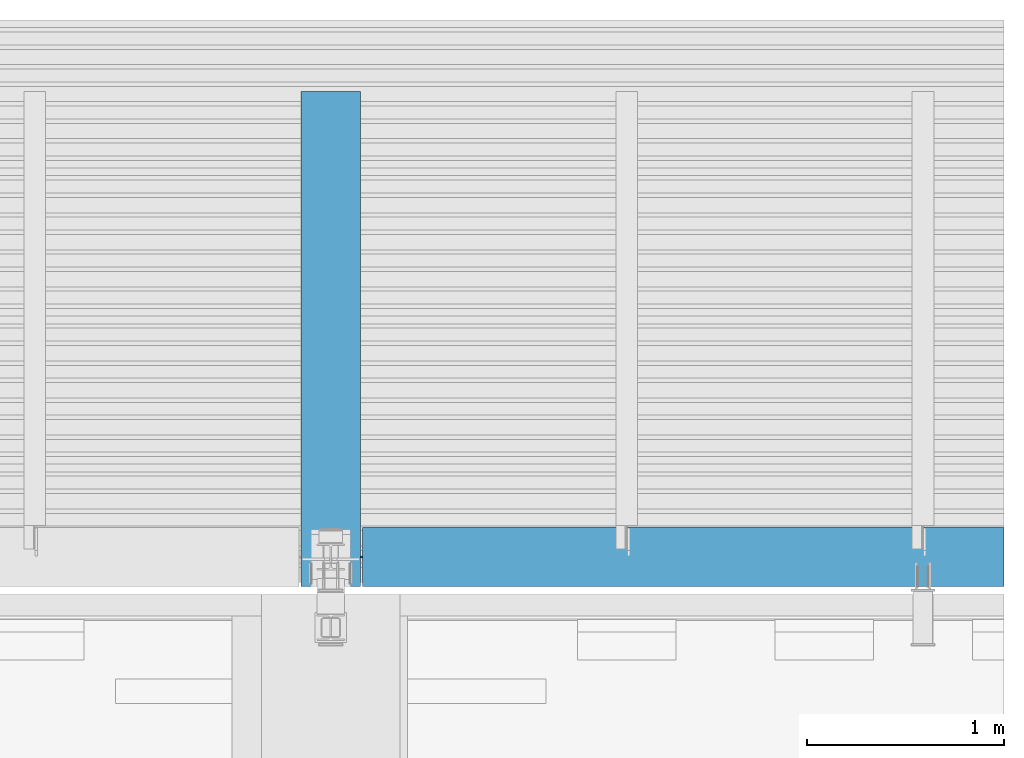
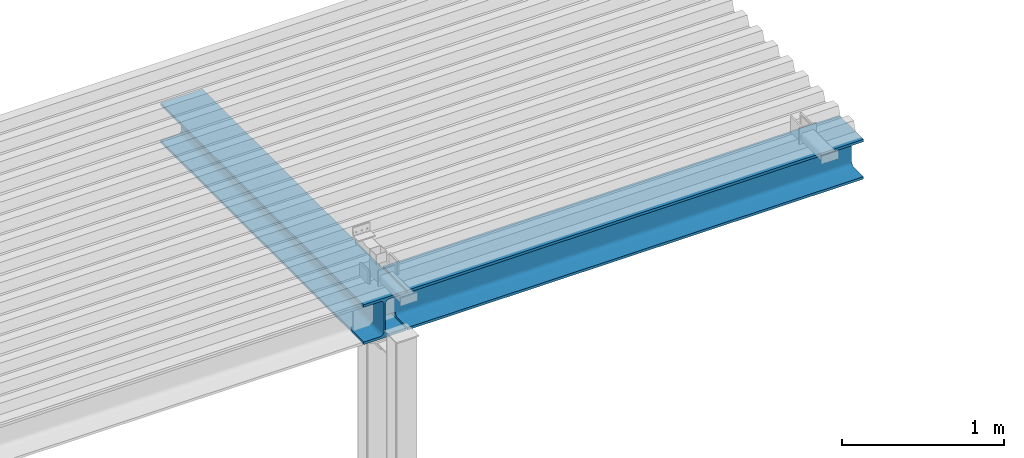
# One storey, part 28 of 34: 2 beams.
"""IFC2X3 building model written with IfcOpenShell, lengths in millimetres."""

from ifc_helpers import new_model, entity, si_unit, converted_unit, derived_unit, direction, frame, origin_with_axes, place, context, subcontext, project, spatial, faceted_brep, type_object, element, save


model = new_model("IFC2X3")

# Units and contexts
model_context = context("Model", 3, precision=0.01, world=frame((0.0, 4.29681676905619e-09, 0.0)), true_north=direction((4.01073788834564e-13, 1.0)))
plan_context = context("Plan", 3, precision=0.01, world=frame((0.0, 4.29681676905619e-09, 0.0)), true_north=direction((4.01073788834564e-13, 1.0)))
body_context = subcontext(model_context, "Body", "Model", "MODEL_VIEW")
ifc_project = project(units=[converted_unit("PLANEANGLEUNIT", "DEGREE", entity("IfcPositiveLengthMeasure", 0.0174532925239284), si_unit("PLANEANGLEUNIT", "RADIAN"), dimensions=[0, 0, 0, 0, 0, 0, 0]), si_unit("AREAUNIT", "SQUARE_METRE"), si_unit("LENGTHUNIT", "METRE", prefix="MILLI"), si_unit("MASSUNIT", "GRAM", prefix="KILO"), si_unit("POWERUNIT", "WATT"), si_unit("PRESSUREUNIT", "PASCAL"), si_unit("FORCEUNIT", "NEWTON", prefix="KILO"), si_unit("ELECTRICVOLTAGEUNIT", "VOLT"), si_unit("ELECTRICCURRENTUNIT", "AMPERE"), si_unit("THERMODYNAMICTEMPERATUREUNIT", "DEGREE_CELSIUS"), si_unit("TIMEUNIT", "SECOND"), si_unit("VOLUMEUNIT", "CUBIC_METRE"), derived_unit("LINEARVELOCITYUNIT", [(si_unit("LENGTHUNIT", "METRE"), 1), (si_unit("TIMEUNIT", "SECOND"), -1)]), derived_unit("VOLUMETRICFLOWRATEUNIT", [(si_unit("VOLUMEUNIT", "CUBIC_METRE"), 1), (si_unit("TIMEUNIT", "SECOND"), -1)]), derived_unit("THERMALTRANSMITTANCEUNIT", [(si_unit("POWERUNIT", "WATT"), 1), (si_unit("THERMODYNAMICTEMPERATUREUNIT", "KELVIN"), -1), (si_unit("AREAUNIT", "SQUARE_METRE"), -1)]), derived_unit("SOUNDPRESSUREUNIT", [(si_unit("PRESSUREUNIT", "PASCAL"), 1)])], contexts=[model_context, plan_context])

# Site, building, storey
site_placement = place(None, frame((0.0, -4.29681676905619e-09, 0.0), z_axis=(0.0, 0.0, 1.0), x_axis=(1.0, 0.0, 0.0)))
site = spatial("IfcSite", under=ifc_project, at=site_placement, Name="Gardermoen", CompositionType="ELEMENT")
building_placement = place(site_placement, frame((0.0, 4.29681676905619e-09, 0.0), z_axis=(0.0, 0.0, 1.0), x_axis=(1.0, 0.0, 0.0)))
building = spatial("IfcBuilding", under=site, at=building_placement, Name="TH", CompositionType="ELEMENT")
storey_placement = place(building_placement, origin_with_axes())
storey = spatial("IfcBuildingStorey", under=building, at=storey_placement, Name="F", CompositionType="ELEMENT", Elevation=0.0)

# Beams
beam_type = type_object("IfcBeamType", Name="HEB300", PredefinedType="NOTDEFINED")
beam_1_placement = place(storey_placement, frame((907000.000000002, 484849.995625, 213270.0), z_axis=(0.0, 0.0, 1.0), x_axis=(0.0, 1.0, 0.0)))
element("IfcBeam", 1, at=beam_1_placement, inside=storey, type_object=beam_type, Name="STÅLBJELKE", ObjectType="HEB300", context=body_context, shape_type="Brep", body=[
    faceted_brep([(2507.65437500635, -149.999999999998, -149.999999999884), (2507.65437500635, 150.000000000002, -149.999999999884), (-4.10182110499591e-10, 150.000000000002, -149.999999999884), (-4.10182110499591e-10, -149.999999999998, -149.999999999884), (2507.65437500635, -149.999999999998, -130.999999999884), (-4.10182110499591e-10, -149.999999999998, -130.999999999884), (2507.65437500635, -32.4999999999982, -130.999999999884), (-4.10182110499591e-10, -32.4999999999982, -130.999999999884), (2507.65437500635, -27.2325613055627, -130.481202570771), (-4.10182110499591e-10, -27.2325613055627, -130.481202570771), (2507.65437500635, -22.1675473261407, -128.944747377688), (-4.10182110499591e-10, -22.1675473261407, -128.944747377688), (2507.65437500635, -17.4996037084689, -126.449679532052), (-4.10182110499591e-10, -17.4996037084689, -126.449679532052), (2507.65437500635, -13.4081169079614, -123.09188309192), (-4.10182110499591e-10, -13.4081169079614, -123.09188309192), (2507.65437500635, -10.0503204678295, -119.000396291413), (-4.10182110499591e-10, -10.0503204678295, -119.000396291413), (2507.65437500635, -7.55525262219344, -114.332452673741), (-4.10182110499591e-10, -7.55525262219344, -114.332452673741), (2507.65437500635, -6.01879742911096, -109.267438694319), (-4.10182110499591e-10, -6.01879742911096, -109.267438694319), (2507.65437500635, -5.49999999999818, -103.999999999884), (-4.10182110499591e-10, -5.49999999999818, -103.999999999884), (2507.65437500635, -5.49999999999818, 104.000000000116), (-4.10182110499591e-10, -5.49999999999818, 104.000000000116), (1499.99999644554, -5.49999999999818, -22.4999973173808), (1510.2871607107, -5.49999999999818, -21.6475789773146), (1520.2937158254, -5.49999999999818, -19.113575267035), (1529.74671125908, -5.49999999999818, -14.9671072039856), (1538.38829393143, -5.49999999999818, -9.32127963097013), (1545.98274398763, -5.49999999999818, -2.33009601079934), (1552.32290462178, -5.49999999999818, 5.81574238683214), (1557.23583277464, -5.49999999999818, 14.8940383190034), (1560.58751656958, -5.49999999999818, 24.6571595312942), (1562.28653080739, -5.49999999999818, 34.8387935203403), (1562.28653080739, -5.49999999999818, 45.1612118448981), (1560.58751656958, -5.49999999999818, 55.3428458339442), (1557.23583277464, -5.49999999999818, 65.105967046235), (1552.32290462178, -5.49999999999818, 74.1842629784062), (1545.98274398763, -5.49999999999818, 82.3301013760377), (1538.38829393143, -5.49999999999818, 89.3212849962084), (1529.74671125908, -5.49999999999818, 94.9671125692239), (1520.2937158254, -5.49999999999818, 99.1135806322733), (1510.2871607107, -5.49999999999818, 101.647584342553), (1499.99999866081, -5.49999999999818, 102.500002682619), (1489.14699239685, -5.49999999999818, 101.550487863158), (1478.62374438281, -5.49999999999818, 98.7307926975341), (1468.75000307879, -5.49999999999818, 94.1265921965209), (1459.82577711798, -5.49999999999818, 87.8777826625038), (1452.1222245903, -5.49999999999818, 80.1742310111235), (1445.87341404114, -5.49999999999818, 71.250005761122), (1441.26921241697, -5.49999999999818, 61.3762649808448), (1438.4495160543, -5.49999999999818, 50.8530172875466), (1437.50000000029, -5.49999999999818, 40.0000062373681), (1438.44951481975, -5.49999999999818, 29.1469950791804), (1441.26920998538, -5.49999999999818, 18.6237470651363), (1445.87341048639, -5.49999999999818, 8.75000576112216), (1452.12222002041, -5.49999999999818, -0.17422019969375), (1459.82577167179, -5.49999999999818, -7.87777272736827), (1468.74999692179, -5.49999999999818, -14.1265832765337), (1478.62373770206, -5.49999999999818, -18.7307849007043), (1489.14698539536, -5.49999999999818, -21.5504812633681), (2507.65437500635, -6.01879742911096, 109.267438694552), (-4.10182110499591e-10, -6.01879742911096, 109.267438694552), (2507.65437500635, -7.55525262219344, 114.332452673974), (-4.10182110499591e-10, -7.55525262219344, 114.332452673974), (2507.65437500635, -10.0503204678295, 119.000396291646), (-4.10182110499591e-10, -10.0503204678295, 119.000396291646), (2507.65437500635, -13.4081169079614, 123.091883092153), (-4.10182110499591e-10, -13.4081169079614, 123.091883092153), (2507.65437500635, -17.4996037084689, 126.449679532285), (-4.10182110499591e-10, -17.4996037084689, 126.449679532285), (2507.65437500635, -22.1675473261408, 128.944747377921), (-4.10182110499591e-10, -22.1675473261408, 128.944747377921), (2507.65437500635, -27.2325613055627, 130.481202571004), (-4.10182110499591e-10, -27.2325613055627, 130.481202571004), (2507.65437500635, -32.4999999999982, 131.000000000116), (-4.10182110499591e-10, -32.4999999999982, 131.000000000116), (2507.65437500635, -149.999999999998, 131.000000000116), (-4.10182110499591e-10, -149.999999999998, 131.000000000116), (2507.65437500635, -149.999999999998, 150.000000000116), (-4.10182110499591e-10, -149.999999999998, 150.000000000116), (2507.65437500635, 150.000000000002, 150.000000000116), (-4.10182110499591e-10, 150.000000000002, 150.000000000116), (2507.65437500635, 150.000000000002, 131.000000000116), (-4.10182110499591e-10, 150.000000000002, 131.000000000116), (2507.65437500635, 32.5000000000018, 131.000000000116), (-4.10182110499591e-10, 32.5000000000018, 131.000000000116), (2507.65437500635, 27.2325613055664, 130.481202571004), (-4.10182110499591e-10, 27.2325613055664, 130.481202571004), (2507.65437500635, 22.1675473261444, 128.944747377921), (-4.10182110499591e-10, 22.1675473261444, 128.944747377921), (2507.65437500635, 17.4996037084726, 126.449679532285), (-4.10182110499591e-10, 17.4996037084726, 126.449679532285), (2507.65437500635, 13.408116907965, 123.091883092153), (-4.10182110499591e-10, 13.408116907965, 123.091883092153), (2507.65437500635, 10.0503204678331, 119.000396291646), (-4.10182110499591e-10, 10.0503204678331, 119.000396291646), (2507.65437500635, 7.55525262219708, 114.332452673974), (-4.10182110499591e-10, 7.55525262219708, 114.332452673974), (2507.65437500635, 6.0187974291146, 109.267438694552), (-4.10182110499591e-10, 6.0187974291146, 109.267438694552), (2507.65437500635, 5.50000000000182, 104.000000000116), (-4.10182110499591e-10, 5.50000000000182, 104.000000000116), (2507.65437500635, 5.50000000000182, -103.999999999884), (-4.10182110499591e-10, 5.50000000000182, -103.999999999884), (1510.2871607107, 5.5000000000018, -21.6475789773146), (1499.99999644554, 5.5000000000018, -22.4999973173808), (1489.14698539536, 5.5000000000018, -21.5504812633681), (1478.62373770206, 5.5000000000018, -18.7307849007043), (1468.74999692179, 5.5000000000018, -14.1265832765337), (1459.82577167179, 5.5000000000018, -7.87777272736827), (1452.12222002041, 5.5000000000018, -0.17422019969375), (1445.87341048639, 5.5000000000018, 8.75000576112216), (1441.26920998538, 5.5000000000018, 18.6237470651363), (1438.44951481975, 5.5000000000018, 29.1469950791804), (1437.50000000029, 5.5000000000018, 40.0000062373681), (1438.4495160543, 5.5000000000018, 50.8530172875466), (1441.26921241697, 5.5000000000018, 61.3762649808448), (1445.87341404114, 5.5000000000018, 71.250005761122), (1452.1222245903, 5.5000000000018, 80.1742310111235), (1459.82577711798, 5.5000000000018, 87.8777826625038), (1468.75000307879, 5.5000000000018, 94.1265921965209), (1478.62374438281, 5.5000000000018, 98.7307926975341), (1489.14699239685, 5.5000000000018, 101.550487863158), (1499.99999866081, 5.5000000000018, 102.500002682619), (1510.2871607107, 5.5000000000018, 101.647584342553), (1520.2937158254, 5.5000000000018, 99.1135806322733), (1529.74671125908, 5.5000000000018, 94.9671125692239), (1538.38829393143, 5.5000000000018, 89.3212849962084), (1545.98274398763, 5.5000000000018, 82.3301013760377), (1552.32290462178, 5.5000000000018, 74.1842629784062), (1557.23583277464, 5.5000000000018, 65.105967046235), (1560.58751656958, 5.5000000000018, 55.3428458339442), (1562.28653080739, 5.5000000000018, 45.1612118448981), (1562.28653080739, 5.5000000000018, 34.8387935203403), (1560.58751656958, 5.5000000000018, 24.6571595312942), (1557.23583277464, 5.5000000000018, 14.8940383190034), (1552.32290462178, 5.5000000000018, 5.81574238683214), (1545.98274398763, 5.5000000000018, -2.33009601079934), (1538.38829393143, 5.5000000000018, -9.32127963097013), (1529.74671125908, 5.5000000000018, -14.9671072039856), (1520.2937158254, 5.5000000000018, -19.113575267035), (2507.65437500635, 6.0187974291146, -109.267438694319), (-4.10182110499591e-10, 6.0187974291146, -109.267438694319), (2507.65437500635, 7.55525262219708, -114.332452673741), (-4.10182110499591e-10, 7.55525262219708, -114.332452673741), (2507.65437500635, 10.0503204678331, -119.000396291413), (-4.10182110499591e-10, 10.0503204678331, -119.000396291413), (2507.65437500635, 13.408116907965, -123.09188309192), (-4.10182110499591e-10, 13.408116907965, -123.09188309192), (2507.65437500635, 17.4996037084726, -126.449679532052), (-4.10182110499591e-10, 17.4996037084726, -126.449679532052), (2507.65437500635, 22.1675473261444, -128.944747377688), (-4.10182110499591e-10, 22.1675473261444, -128.944747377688), (2507.65437500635, 27.2325613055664, -130.481202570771), (-4.10182110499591e-10, 27.2325613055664, -130.481202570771), (2507.65437500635, 32.5000000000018, -130.999999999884), (-4.10182110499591e-10, 32.5000000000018, -130.999999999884), (2507.65437500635, 150.000000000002, -130.999999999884), (-4.10182110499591e-10, 150.000000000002, -130.999999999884)], [[[0, 1, 2, 3]], [[4, 0, 3, 5]], [[6, 4, 5, 7]], [[8, 6, 7, 9]], [[10, 8, 9, 11]], [[12, 10, 11, 13]], [[14, 12, 13, 15]], [[16, 14, 15, 17]], [[18, 16, 17, 19]], [[20, 18, 19, 21]], [[22, 20, 21, 23]], [[24, 22, 23, 25], [26, 27, 28, 29, 30, 31, 32, 33, 34, 35, 36, 37, 38, 39, 40, 41, 42, 43, 44, 45, 46, 47, 48, 49, 50, 51, 52, 53, 54, 55, 56, 57, 58, 59, 60, 61, 62]], [[63, 24, 25, 64]], [[65, 63, 64, 66]], [[67, 65, 66, 68]], [[69, 67, 68, 70]], [[71, 69, 70, 72]], [[73, 71, 72, 74]], [[75, 73, 74, 76]], [[77, 75, 76, 78]], [[79, 77, 78, 80]], [[81, 79, 80, 82]], [[83, 81, 82, 84]], [[85, 83, 84, 86]], [[87, 85, 86, 88]], [[89, 87, 88, 90]], [[91, 89, 90, 92]], [[93, 91, 92, 94]], [[95, 93, 94, 96]], [[97, 95, 96, 98]], [[99, 97, 98, 100]], [[101, 99, 100, 102]], [[103, 101, 102, 104]], [[105, 103, 104, 106], [107, 108, 109, 110, 111, 112, 113, 114, 115, 116, 117, 118, 119, 120, 121, 122, 123, 124, 125, 126, 127, 128, 129, 130, 131, 132, 133, 134, 135, 136, 137, 138, 139, 140, 141, 142, 143]], [[144, 105, 106, 145]], [[146, 144, 145, 147]], [[148, 146, 147, 149]], [[150, 148, 149, 151]], [[152, 150, 151, 153]], [[154, 152, 153, 155]], [[156, 154, 155, 157]], [[158, 156, 157, 159]], [[160, 158, 159, 161]], [[1, 160, 161, 2]], [[3, 2, 161, 159, 157, 155, 153, 151, 149, 147, 145, 106, 104, 102, 100, 98, 96, 94, 92, 90, 88, 86, 84, 82, 80, 78, 76, 74, 72, 70, 68, 66, 64, 25, 23, 21, 19, 17, 15, 13, 11, 9, 7, 5]], [[27, 26, 108, 107]], [[26, 62, 109, 108]], [[62, 61, 110, 109]], [[61, 60, 111, 110]], [[60, 59, 112, 111]], [[59, 58, 113, 112]], [[58, 57, 114, 113]], [[57, 56, 115, 114]], [[56, 55, 116, 115]], [[55, 54, 117, 116]], [[54, 53, 118, 117]], [[53, 52, 119, 118]], [[52, 51, 120, 119]], [[51, 50, 121, 120]], [[50, 49, 122, 121]], [[49, 48, 123, 122]], [[48, 47, 124, 123]], [[47, 46, 125, 124]], [[46, 45, 126, 125]], [[45, 44, 127, 126]], [[44, 43, 128, 127]], [[43, 42, 129, 128]], [[42, 41, 130, 129]], [[41, 40, 131, 130]], [[40, 39, 132, 131]], [[39, 38, 133, 132]], [[38, 37, 134, 133]], [[37, 36, 135, 134]], [[36, 35, 136, 135]], [[35, 34, 137, 136]], [[34, 33, 138, 137]], [[33, 32, 139, 138]], [[32, 31, 140, 139]], [[31, 30, 141, 140]], [[30, 29, 142, 141]], [[29, 28, 143, 142]], [[28, 27, 107, 143]], [[4, 6, 8, 10, 12, 14, 16, 18, 20, 22, 24, 63, 65, 67, 69, 71, 73, 75, 77, 79, 81, 83, 85, 87, 89, 91, 93, 95, 97, 99, 101, 103, 105, 144, 146, 148, 150, 152, 154, 156, 158, 160, 1, 0]]], orient=[[False], [False], [False], [False], [False], [False], [False], [False], [False], [False], [False], [False, False], [False], [False], [False], [False], [False], [False], [False], [False], [False], [False], [False], [False], [False], [False], [False], [False], [False], [False], [False], [False], [False], [False, False], [False], [False], [False], [False], [False], [False], [False], [False], [False], [False], [False], [False], [False], [False], [False], [False], [False], [False], [False], [False], [False], [False], [False], [False], [False], [False], [False], [False], [False], [False], [False], [False], [False], [False], [False], [False], [False], [False], [False], [False], [False], [False], [False], [False], [False], [False], [False], [False], [False]]),
])
beam_2_placement = place(storey_placement, frame((907000.000000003, 484999.995625, 213270.0), z_axis=(0.0, 0.0, 1.0), x_axis=(1.0, 0.0, 0.0)))
element("IfcBeam", 2, at=beam_2_placement, inside=storey, type_object=beam_type, Name="STÅLBJELKE", ObjectType="HEB300", context=body_context, shape_type="Brep", body=[
    faceted_brep([(3410.58484179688, -150.0, -150.0), (3410.58484179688, 150.0, -150.0), (159.999999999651, 150.0, -150.0), (159.999999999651, -150.0, -150.0), (3410.58484179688, -150.0, -131.0), (159.999999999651, -150.0, -131.0), (3410.58484179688, -32.5, -131.0), (159.999999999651, -32.5, -131.0), (3410.58484179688, -27.2325613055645, -130.481202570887), (159.999999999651, -27.2325613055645, -130.481202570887), (3410.58484179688, -22.1675473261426, -128.944747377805), (159.999999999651, -22.1675473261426, -128.944747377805), (3410.58484179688, -17.4996037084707, -126.449679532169), (159.999999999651, -17.4996037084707, -126.449679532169), (3410.58484179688, -13.4081169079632, -123.091883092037), (159.999999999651, -13.4081169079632, -123.091883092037), (3410.58484179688, -10.0503204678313, -119.000396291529), (159.999999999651, -10.0503204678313, -119.000396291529), (3410.58484179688, -7.55525262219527, -114.332452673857), (159.999999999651, -7.55525262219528, -114.332452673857), (3410.58484179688, -6.01879742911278, -109.267438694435), (159.999999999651, -6.01879742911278, -109.267438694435), (3410.58484179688, -5.49999999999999, -104.0), (159.876883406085, -5.93687392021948, -108.435655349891), (159.510565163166, -5.78659324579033, -106.909830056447), (158.910065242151, -5.64380680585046, -105.460095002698), (158.090169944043, -5.51203047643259, -104.122147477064), (157.985846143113, -5.5, -104.0), (3410.58484179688, -5.5, 104.0), (157.07106781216, -5.5, -102.928932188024), (155.877852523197, -5.5, -101.909830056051), (154.539904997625, -5.5, -101.089934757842), (153.090169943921, -5.5, -100.489434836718), (151.564344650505, -5.5, -100.123116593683), (150.000000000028, -5.5, -99.999999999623), (30.0, -5.5, -100.0), (30.0, -5.5, 100.0), (150.000000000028, -5.5, 99.999999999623), (151.564344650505, -5.5, 100.123116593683), (153.090169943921, -5.5, 100.489434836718), (154.539904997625, -5.5, 101.089934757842), (155.877852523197, -5.5, 101.909830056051), (157.07106781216, -5.5, 102.928932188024), (157.985846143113, -5.5, 104.0), (3410.58484179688, -6.01879742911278, 109.267438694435), (158.090169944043, -5.5, 104.122147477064), (158.910065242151, -5.64380680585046, 105.460095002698), (159.510565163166, -5.7865932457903, 106.909830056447), (159.876883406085, -5.93687392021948, 108.435655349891), (159.999999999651, -6.01879742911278, 109.267438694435), (3410.58484179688, -7.55525262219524, 114.332452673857), (159.999999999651, -7.55525262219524, 114.332452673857), (3410.58484179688, -10.0503204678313, 119.000396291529), (159.999999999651, -10.0503204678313, 119.000396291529), (3410.58484179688, -13.4081169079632, 123.091883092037), (159.999999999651, -13.4081169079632, 123.091883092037), (3410.58484179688, -17.4996037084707, 126.449679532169), (159.999999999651, -17.4996037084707, 126.449679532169), (3410.58484179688, -22.1675473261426, 128.944747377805), (159.999999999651, -22.1675473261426, 128.944747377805), (3410.58484179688, -27.2325613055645, 130.481202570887), (159.999999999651, -27.2325613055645, 130.481202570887), (3410.58484179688, -32.5, 131.0), (159.999999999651, -32.5, 131.0), (3410.58484179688, -150.0, 131.0), (159.999999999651, -150.0, 131.0), (3410.58484179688, -150.0, 150.0), (159.999999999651, -150.0, 150.0), (3410.58484179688, 150.0, 150.0), (159.999999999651, 150.0, 150.0), (3410.58484179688, 150.0, 131.0), (159.999999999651, 150.0, 131.0), (3410.58484179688, 32.5, 131.0), (159.999999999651, 32.5, 131.0), (3410.58484179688, 27.2325613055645, 130.481202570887), (159.999999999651, 27.2325613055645, 130.481202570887), (3410.58484179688, 22.1675473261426, 128.944747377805), (159.999999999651, 22.1675473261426, 128.944747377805), (3410.58484179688, 17.4996037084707, 126.449679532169), (159.999999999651, 17.4996037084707, 126.449679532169), (3410.58484179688, 13.4081169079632, 123.091883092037), (159.999999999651, 13.4081169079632, 123.091883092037), (3410.58484179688, 10.0503204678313, 119.000396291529), (159.999999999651, 10.0503204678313, 119.000396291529), (3410.58484179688, 7.55525262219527, 114.332452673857), (159.999999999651, 7.55525262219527, 114.332452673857), (3410.58484179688, 6.01879742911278, 109.267438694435), (159.999999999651, 6.01879742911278, 109.267438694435), (3410.58484179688, 5.49999999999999, 104.0), (159.876883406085, 5.93687392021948, 108.435655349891), (159.510565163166, 5.78659324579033, 106.909830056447), (158.910065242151, 5.64380680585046, 105.460095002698), (158.090169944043, 5.51203047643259, 104.122147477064), (157.985846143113, 5.5, 104.0), (3410.58484179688, 5.5, -104.0), (157.07106781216, 5.5, 102.928932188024), (155.877852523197, 5.5, 101.909830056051), (154.539904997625, 5.5, 101.089934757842), (153.090169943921, 5.5, 100.489434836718), (151.564344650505, 5.5, 100.123116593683), (150.000000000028, 5.5, 99.999999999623), (30.0, 5.5, 100.0), (30.0, 5.5, -100.0), (150.000000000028, 5.5, -99.999999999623), (151.564344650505, 5.5, -100.123116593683), (153.090169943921, 5.5, -100.489434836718), (154.539904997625, 5.5, -101.089934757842), (155.877852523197, 5.5, -101.909830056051), (157.07106781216, 5.5, -102.928932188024), (157.985846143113, 5.5, -104.0), (3410.58484179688, 6.01879742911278, -109.267438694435), (158.090169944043, 5.5, -104.122147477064), (158.910065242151, 5.64380680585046, -105.460095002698), (159.510565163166, 5.7865932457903, -106.909830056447), (159.876883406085, 5.93687392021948, -108.435655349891), (159.999999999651, 6.01879742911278, -109.267438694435), (3410.58484179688, 7.55525262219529, -114.332452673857), (159.999999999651, 7.55525262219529, -114.332452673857), (3410.58484179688, 10.0503204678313, -119.000396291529), (159.999999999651, 10.0503204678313, -119.000396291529), (3410.58484179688, 13.4081169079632, -123.091883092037), (159.999999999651, 13.4081169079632, -123.091883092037), (3410.58484179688, 17.4996037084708, -126.449679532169), (159.999999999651, 17.4996037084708, -126.449679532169), (3410.58484179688, 22.1675473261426, -128.944747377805), (159.999999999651, 22.1675473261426, -128.944747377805), (3410.58484179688, 27.2325613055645, -130.481202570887), (159.999999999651, 27.2325613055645, -130.481202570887), (3410.58484179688, 32.5, -131.0), (159.999999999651, 32.5, -131.0), (3410.58484179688, 150.0, -131.0), (159.999999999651, 150.0, -131.0), (158.325127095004, 5.5, -104.0), (158.090169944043, 5.51203047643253, -104.122147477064), (158.325127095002, -5.5, -104.0), (160.076576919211, -6.01879742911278, -109.267438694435), (159.999999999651, -6.24101747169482, -110.0), (159.999999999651, 6.24101747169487, -110.0), (160.076576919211, 6.01879742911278, -109.267438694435), (160.340971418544, -7.55525262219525, -114.332452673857), (160.340971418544, 7.55525262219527, -114.332452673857), (158.325127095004, -5.5, 104.0), (158.090169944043, -5.51203047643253, 104.122147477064), (158.325127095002, 5.5, 104.0), (160.076576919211, 6.01879742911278, 109.267438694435), (159.999999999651, 6.24101747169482, 110.0), (159.999999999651, -6.24101747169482, 110.0), (160.076576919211, -6.01879742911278, 109.267438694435), (160.340971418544, 7.55525262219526, 114.332452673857), (160.340971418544, -7.55525262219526, 114.332452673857)], [[[0, 1, 2, 3]], [[4, 0, 3, 5]], [[6, 4, 5, 7]], [[8, 6, 7, 9]], [[10, 8, 9, 11]], [[12, 10, 11, 13]], [[14, 12, 13, 15]], [[16, 14, 15, 17]], [[18, 16, 17, 19]], [[20, 18, 19, 21]], [[22, 20, 21, 23, 24, 25, 26, 27]], [[28, 22, 27, 29, 30, 31, 32, 33, 34, 35, 36, 37, 38, 39, 40, 41, 42, 43]], [[44, 28, 43, 45, 46, 47, 48, 49]], [[50, 44, 49, 51]], [[52, 50, 51, 53]], [[54, 52, 53, 55]], [[56, 54, 55, 57]], [[58, 56, 57, 59]], [[60, 58, 59, 61]], [[62, 60, 61, 63]], [[64, 62, 63, 65]], [[66, 64, 65, 67]], [[68, 66, 67, 69]], [[70, 68, 69, 71]], [[72, 70, 71, 73]], [[74, 72, 73, 75]], [[76, 74, 75, 77]], [[78, 76, 77, 79]], [[80, 78, 79, 81]], [[82, 80, 81, 83]], [[84, 82, 83, 85]], [[86, 84, 85, 87]], [[88, 86, 87, 89, 90, 91, 92, 93]], [[94, 88, 93, 95, 96, 97, 98, 99, 100, 101, 102, 103, 104, 105, 106, 107, 108, 109]], [[110, 94, 109, 111, 112, 113, 114, 115]], [[116, 110, 115, 117]], [[118, 116, 117, 119]], [[120, 118, 119, 121]], [[122, 120, 121, 123]], [[124, 122, 123, 125]], [[126, 124, 125, 127]], [[128, 126, 127, 129]], [[130, 128, 129, 131]], [[1, 130, 131, 2]], [[35, 102, 101, 36]], [[103, 102, 35, 34]], [[34, 33, 104, 103]], [[33, 32, 105, 104]], [[32, 31, 106, 105]], [[31, 30, 107, 106]], [[30, 29, 108, 107]], [[108, 132, 133, 26, 134, 29]], [[26, 25, 112, 133]], [[25, 24, 113, 112]], [[24, 23, 114, 113]], [[23, 135, 136, 137, 138, 114]], [[136, 139, 17, 15, 13, 11, 9, 7, 5, 3, 2, 131, 129, 127, 125, 123, 121, 119, 140, 137]], [[37, 36, 101, 100]], [[100, 99, 38, 37]], [[99, 98, 39, 38]], [[98, 97, 40, 39]], [[97, 96, 41, 40]], [[96, 95, 42, 41]], [[42, 141, 142, 92, 143, 95]], [[92, 91, 46, 142]], [[91, 90, 47, 46]], [[90, 89, 48, 47]], [[89, 144, 145, 146, 147, 48]], [[145, 148, 83, 81, 79, 77, 75, 73, 71, 69, 67, 65, 63, 61, 59, 57, 55, 53, 149, 146]], [[4, 6, 8, 10, 12, 14, 16, 18, 20, 22, 28, 44, 50, 52, 54, 56, 58, 60, 62, 64, 66, 68, 70, 72, 74, 76, 78, 80, 82, 84, 86, 88, 94, 110, 116, 118, 120, 122, 124, 126, 128, 130, 1, 0]]], orient=[[False], [False], [False], [False], [False], [False], [False], [False], [False], [False], [False], [False], [False], [False], [False], [False], [False], [False], [False], [False], [False], [False], [False], [False], [False], [False], [False], [False], [False], [False], [False], [False], [False], [False], [False], [False], [False], [False], [False], [False], [False], [False], [False], [False], [False], [False], [False], [False], [False], [False], [False], [False], [False], [False], [False], [False], [False], [False], [False], [False], [False], [False], [False], [False], [False], [False], [False], [False], [False], [False]]),
])

save(model, "model.ifc")
